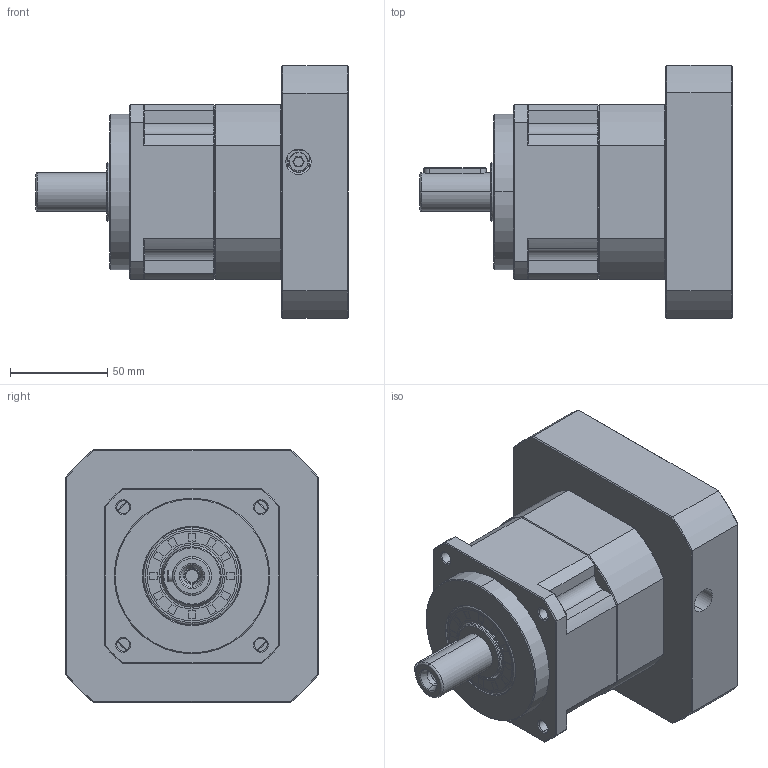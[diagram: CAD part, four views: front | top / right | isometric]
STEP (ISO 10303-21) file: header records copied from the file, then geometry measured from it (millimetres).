
FILE_DESCRIPTION (( 'STEP AP214' ), '1' );
FILE_NAME ('ZPB090-D20-L1-P1-19-110-145-M8.step', '2024-06-07T18:13:41', ( 'Windows 蚚誧' ), ( 'Organization' ), 'SwSTEP 2.0', 'SolidWorks 2016', '' );
FILE_SCHEMA (( 'AUTOMOTIVE_DESIGN' ));
Length unit declared in the file: millimetre
Products named in the file (1): ZPB090-D20-L1-P1-19-110-145-M8
Bounding box: 160.5 x 130 x 130 mm (x, y, z)
Surface area: 106193.2 mm2 (no closed solid volume)
Topology: 0 solids, 35 shells, 1817 faces, 4865 edges, 3112 vertices
Faces by surface type: plane 933, bspline 388, cone 276, cylinder 218, torus 2
Full cylindrical faces by diameter (mm): 6.72 x1
Entity records: 94899 total; most frequent: CARTESIAN_POINT 47722, ORIENTED_EDGE 9681, DIRECTION 7455, EDGE_CURVE 4860, LINE 3199, VECTOR 3199, VERTEX_POINT 3110, AXIS2_PLACEMENT_3D 2128
